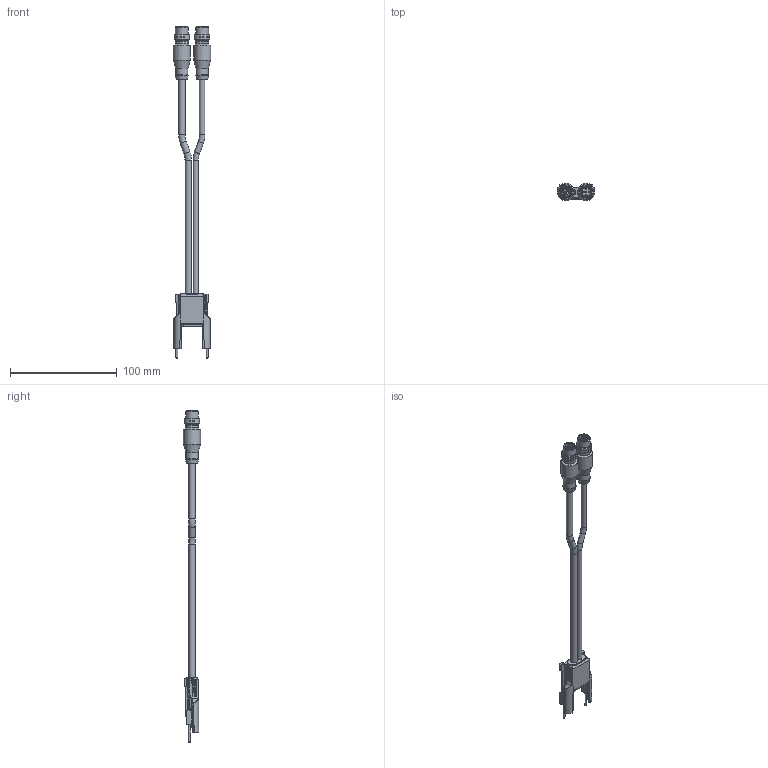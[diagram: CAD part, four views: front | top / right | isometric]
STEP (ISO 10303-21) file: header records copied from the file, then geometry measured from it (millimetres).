
FILE_DESCRIPTION(/* description */ (''),/* implementation_level */ '2;1');
FILE_NAME(/* name */ 'DSD- (95A252810-a).stp',/* time_stamp */ '2020-06-01T12:39:02+02:00',/* author */ (''),/* organization */ (''),/* preprocessor_version */ 'ST-DEVELOPER v16.7',/* originating_system */ 'SIEMENS PLM Software NX 12.0',/* authorisation */ '');
FILE_SCHEMA (('AUTOMOTIVE_DESIGN { 1 0 10303 214 3 1 1 1 }'));
Length unit declared in the file: millimetre
Products named in the file (13): AP002066_00_1-Plastica conn_M12_5P; AP002068_00_1-PINxM12_4P_cavo; AP002936_00_1-PINxM12_12P_cavo; AP002937_00_1-Plastica conn_M12_12P; AP003749_00_2-Cavo D5 L200; AP003748_00_1-Cavo D6 L200; AP003746_00_2-Terminale CVL SG4E; MP001991_02_1-Vite imp. M2x29_5 testa cil. Ph; MP001955_04_1-Corpo connettore SG4E; MP001951_02_1-Guarnizione connettore SG4E; MP001572_02_1-Connettore x M12_5P x fili; MP004242_01_1-Connector for M12-12P_MODELNX-ARRAGMNTArrangement 1; AS000534_05_1-SG4E cable plugs
Assembly tree (29 placements, depth 3):
  AS000534_05_1-SG4E cable plugs
    MP001951_02_1-Guarnizione connettore SG4E
    MP001955_04_1-Corpo connettore SG4E
    MP001991_02_1-Vite imp. M2x29_5 testa cil. Ph  x2
    AP003746_00_2-Terminale CVL SG4E  x2
    MP004242_01_1-Connector for M12-12P_MODELNX-ARRAGMNTArrangement 1
      AP002937_00_1-Plastica conn_M12_12P
      AP002936_00_1-PINxM12_12P_cavo  x12
    MP001572_02_1-Connettore x M12_5P x fili
      AP002068_00_1-PINxM12_4P_cavo  x5
      AP002066_00_1-Plastica conn_M12_5P
    AP003748_00_1-Cavo D6 L200
    AP003749_00_2-Cavo D5 L200
Bounding box: 35 x 16 x 310.6 mm (x, y, z)
Volume: 34149.4 mm3; surface area: 23238.3 mm2
Topology: 28 solids, 28 shells, 1245 faces, 2830 edges, 1821 vertices
Faces by surface type: plane 745, cylinder 322, cone 68, bspline 65, torus 41, sphere 4
Full cylindrical faces by diameter (mm): 0.6 x36, 0.7 x17, 0.8 x34, 1 x68, 1.6 x2, 1.8 x2, 1.886 x2, 2.05 x2, 3.6 x2, 4 x2, 5 x3, 6 x3, 8 x6, 8.3 x3, 9.3 x3, 9.4 x6, 9.5 x2, 10 x2, 10.4 x3, 11.5 x2, 12 x4, 13.5 x2, 14.5 x4, 16 x2
Entity records: 29272 total; most frequent: CARTESIAN_POINT 6093, DIRECTION 4582, ORIENTED_EDGE 4234, EDGE_CURVE 2117, AXIS2_PLACEMENT_3D 1591, VERTEX_POINT 1465, LINE 1400, VECTOR 1400
